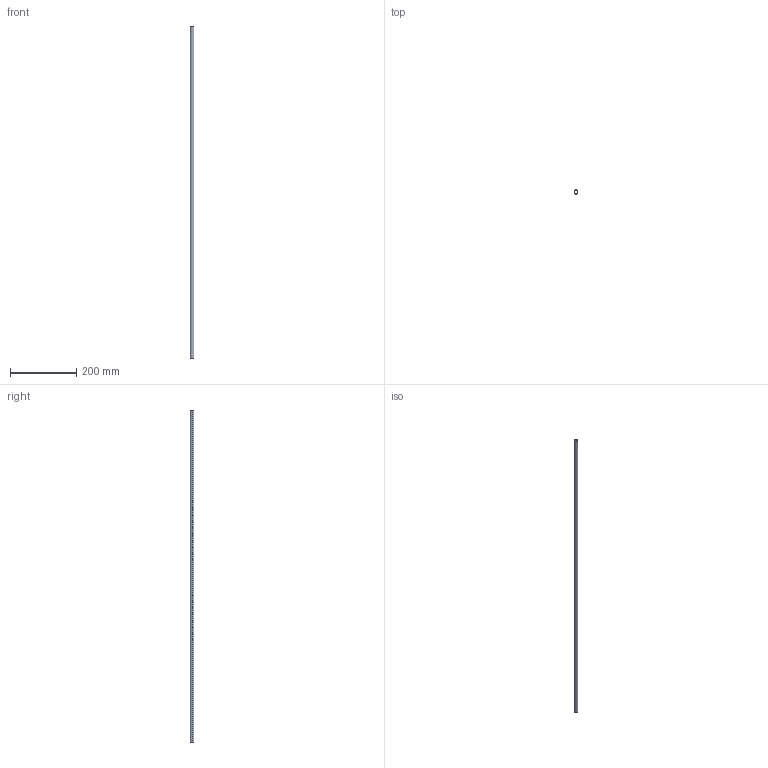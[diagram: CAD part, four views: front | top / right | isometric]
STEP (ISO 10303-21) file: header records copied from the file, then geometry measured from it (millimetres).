
FILE_DESCRIPTION (( 'STEP AP214' ), '1' );
FILE_NAME ('PCT12-1000.STEP', '2022-12-13T01:20:05', ( '' ), ( '' ), 'SwSTEP 2.0', 'SolidWorks 2018', '' );
FILE_SCHEMA (( 'AUTOMOTIVE_DESIGN' ));
Length unit declared in the file: millimetre
Products named in the file (1): PCT12-1000
Bounding box: 12 x 12 x 1000 mm (x, y, z)
Volume: 34557.5 mm3; surface area: 69184.2 mm2
Topology: 1 solids, 1 shells, 6 faces, 12 edges, 8 vertices
Faces by surface type: cylinder 4, plane 2
Entity records: 202 total; most frequent: DIRECTION 34, CARTESIAN_POINT 27, ORIENTED_EDGE 24, AXIS2_PLACEMENT_3D 15, EDGE_CURVE 12, VERTEX_POINT 8, EDGE_LOOP 8, CIRCLE 8
